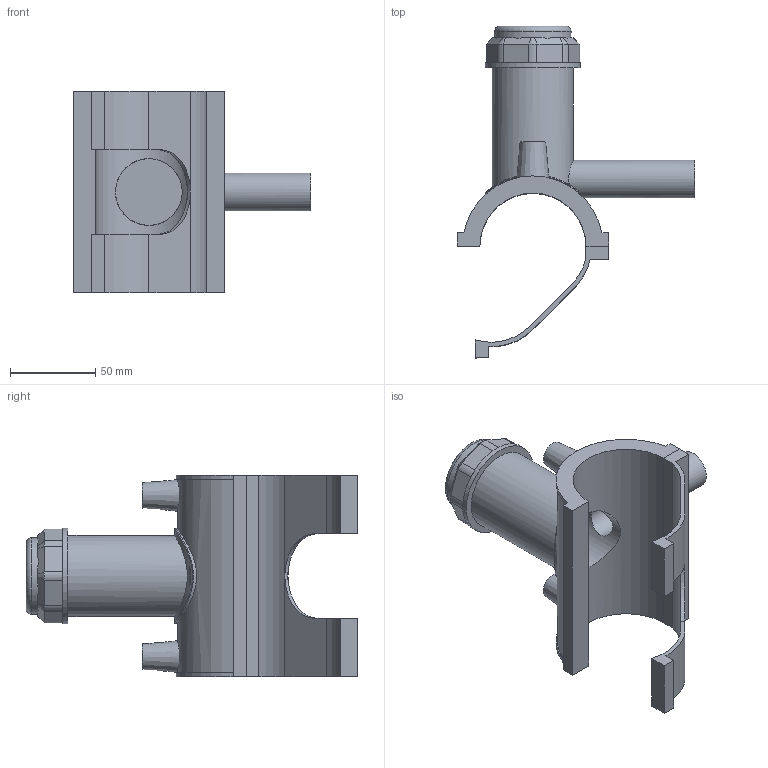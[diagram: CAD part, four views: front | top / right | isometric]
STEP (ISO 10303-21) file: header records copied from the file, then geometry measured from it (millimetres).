
FILE_DESCRIPTION(/* description */ ('PLASSON TAPPING SADDLE 2''''IPS x 1 3/4''''CTS'),/* implementation_level */ '2;1');
FILE_NAME(/* name */ 'C:\Dropbox\KIMPROJECTS-Inventor 2019\99-16-3568-Processing Inch\ASTM ElectroFusion 2021\5963B\5963BU03020007.ipt.stp',/* time_stamp */ '2021-08-30T09:56:07+03:00',/* author */ ('KIM'),/* organization */ (''),/* preprocessor_version */ 'ST-DEVELOPER v17.2',/* originating_system */ 'Autodesk Inventor 2019',/* authorisation */ '');
FILE_SCHEMA (('AUTOMOTIVE_DESIGN { 1 0 10303 214 3 1 1 }'));
Length unit declared in the file: millimetre
Products named in the file (1): 5963BU03020007
Bounding box: 139.45 x 194.46 x 118.11 mm (x, y, z)
Volume: 259317.6 mm3; surface area: 91011.2 mm2
Topology: 2 solids, 2 shells, 109 faces, 275 edges, 181 vertices
Faces by surface type: plane 64, cylinder 32, cone 11, torus 1, bspline 1
Full cylindrical faces by diameter (mm): 4 x2, 10 x2, 17.68 x1, 22.1 x1, 39.123 x1, 44.712 x1, 47.507 x1, 55.89 x1
Entity records: 3807 total; most frequent: CARTESIAN_POINT 1095, DIRECTION 562, ORIENTED_EDGE 550, EDGE_CURVE 275, AXIS2_PLACEMENT_3D 203, VERTEX_POINT 181, LINE 156, VECTOR 156
